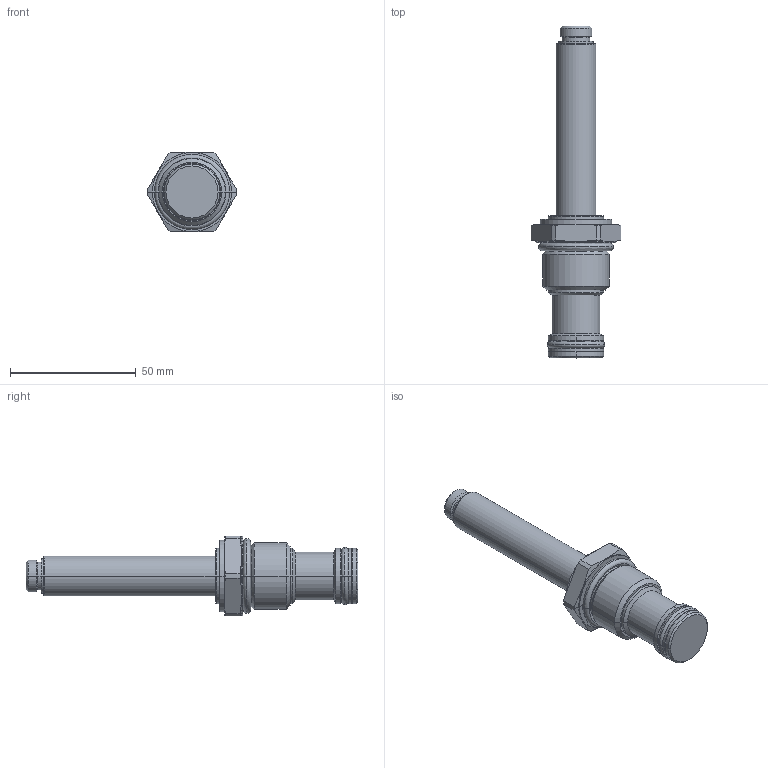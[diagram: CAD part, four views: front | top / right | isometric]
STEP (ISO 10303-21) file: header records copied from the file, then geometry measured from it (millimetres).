
FILE_DESCRIPTION((''),'2;1');
FILE_NAME('PRT0001','2009-03-03T',('JCS'),(''),'PRO/ENGINEER BY PARAMETRIC TECHNOLOGY CORPORATION, 2008010','PRO/ENGINEER BY PARAMETRIC TECHNOLOGY CORPORATION, 2008010','');
FILE_SCHEMA(('CONFIG_CONTROL_DESIGN'));
Length unit declared in the file: inch
Products named in the file (1): PRT0001
Bounding box: 35.69 x 132.18 x 31.75 mm (x, y, z)
Volume: 41702.6 mm3; surface area: 11901.1 mm2
Topology: 4 solids, 4 shells, 120 faces, 264 edges, 154 vertices
Faces by surface type: cylinder 38, cone 38, plane 16, revolution 16, torus 12
Entity records: 3672 total; most frequent: CARTESIAN_POINT 944, DIRECTION 602, ORIENTED_EDGE 528, EDGE_CURVE 264, AXIS2_PLACEMENT_3D 252, VERTEX_POINT 154, CIRCLE 148, EDGE_LOOP 128
